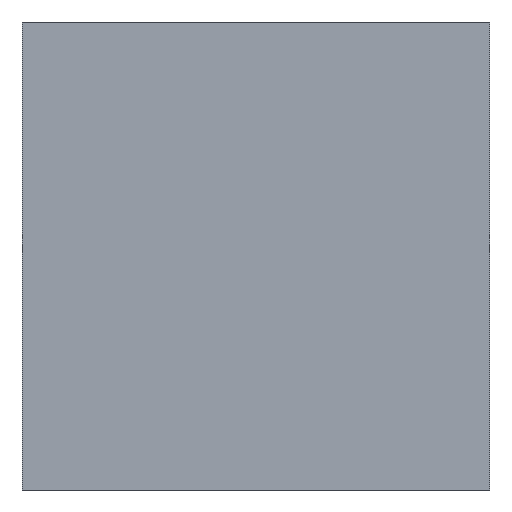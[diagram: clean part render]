
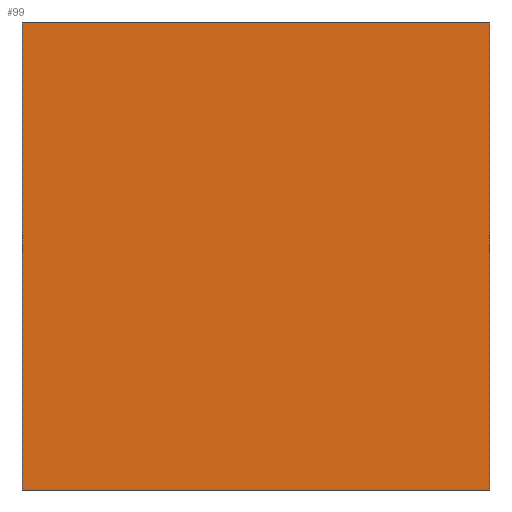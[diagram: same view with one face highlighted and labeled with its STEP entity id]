
A CAD part, front view. The second image highlights one B-rep face of the part: STEP entity #99.
In plain terms, the highlighted planar face has unit normal (0, -1, 0).
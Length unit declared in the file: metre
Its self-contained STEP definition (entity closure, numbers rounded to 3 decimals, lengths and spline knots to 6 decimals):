
#16=ORIENTED_EDGE('',*,*,#40,.F.);
#17=ORIENTED_EDGE('',*,*,#41,.T.);
#18=ORIENTED_EDGE('',*,*,#36,.T.);
#19=ORIENTED_EDGE('',*,*,#42,.F.);
#36=EDGE_CURVE('',#48,#49,#56,.T.);
#40=EDGE_CURVE('',#52,#53,#60,.T.);
#41=EDGE_CURVE('',#52,#48,#61,.T.);
#42=EDGE_CURVE('',#53,#49,#62,.T.);
#48=VERTEX_POINT('',#152);
#49=VERTEX_POINT('',#153);
#52=VERTEX_POINT('',#161);
#53=VERTEX_POINT('',#162);
#56=LINE('',#151,#68);
#60=LINE('',#160,#72);
#61=LINE('',#163,#73);
#62=LINE('',#164,#74);
#68=VECTOR('',#127,1.);
#72=VECTOR('',#133,1.);
#73=VECTOR('',#134,1.);
#74=VECTOR('',#135,1.);
#81=EDGE_LOOP('',(#16,#17,#18,#19));
#87=FACE_BOUND('',#81,.T.);
#93=PLANE('',#118);
#99=ADVANCED_FACE('',(#87),#93,.T.);
#118=AXIS2_PLACEMENT_3D('',#159,#131,#132);
#127=DIRECTION('',(0.,0.,-1.));
#131=DIRECTION('',(0.,-1.,0.));
#132=DIRECTION('',(1.,0.,0.));
#133=DIRECTION('',(0.,0.,-1.));
#134=DIRECTION('',(-1.,0.,0.));
#135=DIRECTION('',(-1.,0.,0.));
#151=CARTESIAN_POINT('',(-0.00475,-0.0094,0.001116));
#152=CARTESIAN_POINT('',(-0.00475,-0.0094,0.0008));
#153=CARTESIAN_POINT('',(-0.00475,-0.0094,0.0005));
#159=CARTESIAN_POINT('',(-0.00475,-0.0094,0.001116));
#160=CARTESIAN_POINT('',(-0.00445,-0.0094,0.001116));
#161=CARTESIAN_POINT('',(-0.00445,-0.0094,0.0008));
#162=CARTESIAN_POINT('',(-0.00445,-0.0094,0.0005));
#163=CARTESIAN_POINT('',(-0.00475,-0.0094,0.0008));
#164=CARTESIAN_POINT('',(-0.00475,-0.0094,0.0005));
